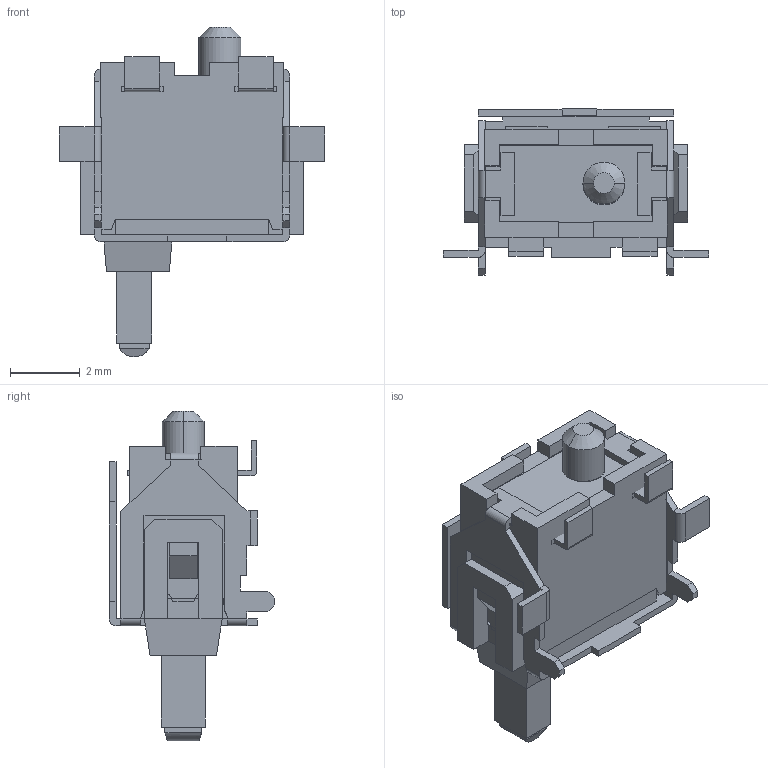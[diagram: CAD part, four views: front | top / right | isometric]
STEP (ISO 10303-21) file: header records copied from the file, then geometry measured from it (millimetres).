
FILE_DESCRIPTION((''),'2;1');
FILE_NAME('DTS-03-SMT_ASM','2020-10-09T',('Administrator'),(''),'PRO/ENGINEER BY PARAMETRIC TECHNOLOGY CORPORATION, 2010100','PRO/ENGINEER BY PARAMETRIC TECHNOLOGY CORPORATION, 2010100','');
FILE_SCHEMA(('CONFIG_CONTROL_DESIGN'));
Length unit declared in the file: inch
Products named in the file (7): 11-91134; 12-912; 11-91133-; 11-91104-; 13-911; 10-91101-; DTS-03-SMT_ASM
Assembly tree (6 placements, depth 2):
  DTS-03-SMT_ASM
    11-91134
    12-912
    11-91133-
    11-91104-
    13-911
    10-91101-
Bounding box: 7.6 x 4.75 x 9.45 mm (x, y, z)
Volume: 73.8 mm3; surface area: 476.4 mm2
Topology: 7 solids, 8 shells, 468 faces, 1285 edges, 836 vertices
Faces by surface type: plane 365, cylinder 58, bspline 29, torus 14, cone 2
Entity records: 16805 total; most frequent: CARTESIAN_POINT 4989, ORIENTED_EDGE 2556, DIRECTION 2196, EDGE_CURVE 1285, VECTOR 1062, LINE 1062, VERTEX_POINT 836, AXIS2_PLACEMENT_3D 567
